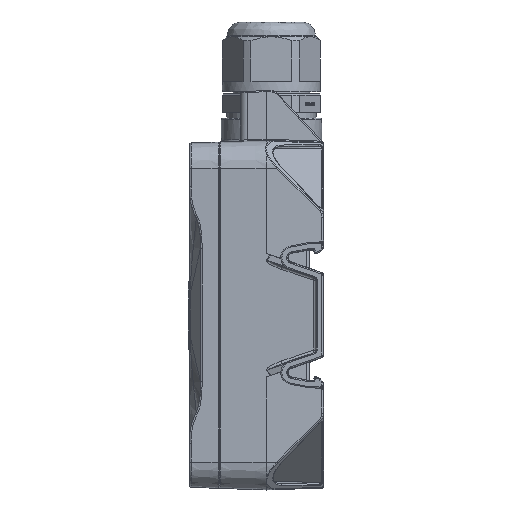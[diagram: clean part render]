
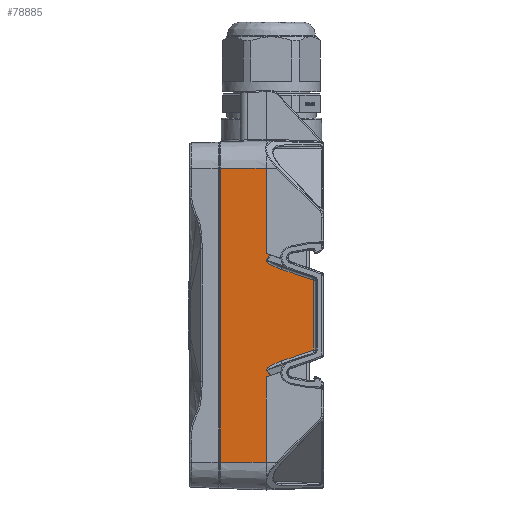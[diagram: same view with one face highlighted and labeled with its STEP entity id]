
A CAD part, left-side view. The second image highlights one B-rep face of the part: STEP entity #78885.
In plain terms, the highlighted planar face has unit normal (-0.999, 0.035, 0).
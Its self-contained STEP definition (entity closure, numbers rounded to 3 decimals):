
#1236 = EDGE_CURVE ( 'NONE', #76141, #101444, #124879, .T. ) ;
#1971 = CARTESIAN_POINT ( 'NONE',  ( -65.57, 12.31, 39.5 ) ) ;
#4113 = EDGE_CURVE ( 'NONE', #51769, #73610, #109948, .T. ) ;
#4723 = ORIENTED_EDGE ( 'NONE', *, *, #1236, .T. ) ;
#5016 = VECTOR ( 'NONE', #19097, 1000. ) ;
#9175 = CARTESIAN_POINT ( 'NONE',  ( -65.57, 12.31, -39.5 ) ) ;
#10316 = CARTESIAN_POINT ( 'NONE',  ( -65.999, 0.017, 16.62 ) ) ;
#11072 = AXIS2_PLACEMENT_3D ( 'NONE', #151407, #109719, #68897 ) ;
#11093 = ORIENTED_EDGE ( 'NONE', *, *, #160816, .T. ) ;
#11690 = LINE ( 'NONE', #62193, #165153 ) ;
#13814 = CARTESIAN_POINT ( 'NONE',  ( -66.443, -12.676, -22. ) ) ;
#14487 = VECTOR ( 'NONE', #138174, 1000. ) ;
#14850 = CARTESIAN_POINT ( 'NONE',  ( -66.005, -0.14, -14.843 ) ) ;
#17664 = CARTESIAN_POINT ( 'NONE',  ( -65.87, 3.715, 17.894 ) ) ;
#19097 = DIRECTION ( 'NONE',  ( 0.019, 0.531, 0.847 ) ) ;
#22162 = CARTESIAN_POINT ( 'NONE',  ( -65.993, 0.207, -14.29 ) ) ;
#22369 = EDGE_LOOP ( 'NONE', ( #114646, #120421, #50263, #164339, #110050, #11093, #83787, #150569, #36549, #82269, #34922, #23548, #169453, #4723 ) ) ;
#22684 = DIRECTION ( 'NONE',  ( 0., 0., -1. ) ) ;
#23062 = DIRECTION ( 'NONE',  ( -0.035, -0.999, 0. ) ) ;
#23548 = ORIENTED_EDGE ( 'NONE', *, *, #102438, .F. ) ;
#23552 = CARTESIAN_POINT ( 'NONE',  ( -66., 0., 0. ) ) ;
#26099 = DIRECTION ( 'NONE',  ( -0.033, -0.945, 0.326 ) ) ;
#32425 = FACE_OUTER_BOUND ( 'NONE', #22369, .T. ) ;
#34922 = ORIENTED_EDGE ( 'NONE', *, *, #165051, .F. ) ;
#35074 = VECTOR ( 'NONE', #22684, 1000. ) ;
#36549 = ORIENTED_EDGE ( 'NONE', *, *, #57466, .T. ) ;
#37752 = VECTOR ( 'NONE', #111480, 1000. ) ;
#42169 = LINE ( 'NONE', #146412, #158851 ) ;
#46138 = EDGE_CURVE ( 'NONE', #76141, #106489, #112344, .T. ) ;
#47369 = CARTESIAN_POINT ( 'NONE',  ( -66.005, -0.14, 14.843 ) ) ;
#48058 = VERTEX_POINT ( 'NONE', #156181 ) ;
#49209 = LINE ( 'NONE', #116060, #90589 ) ;
#50263 = ORIENTED_EDGE ( 'NONE', *, *, #149418, .T. ) ;
#51171 = EDGE_CURVE ( 'NONE', #115394, #51769, #67707, .T. ) ;
#51769 = VERTEX_POINT ( 'NONE', #130137 ) ;
#52212 = LINE ( 'NONE', #112033, #5016 ) ;
#53359 = CARTESIAN_POINT ( 'NONE',  ( -65.993, 0.207, 14.29 ) ) ;
#54317 = LINE ( 'NONE', #135027, #98914 ) ;
#54957 = EDGE_CURVE ( 'NONE', #89701, #147836, #158117, .T. ) ;
#57466 = EDGE_CURVE ( 'NONE', #73610, #48058, #167741, .T. ) ;
#57851 = DIRECTION ( 'NONE',  ( -0.033, -0.945, 0.325 ) ) ;
#60652 = VERTEX_POINT ( 'NONE', #72294 ) ;
#62193 = CARTESIAN_POINT ( 'NONE',  ( -66., 0., 39.5 ) ) ;
#65520 = CARTESIAN_POINT ( 'NONE',  ( -66.048, -1.388, -13.255 ) ) ;
#67707 =( BOUNDED_CURVE ( )  B_SPLINE_CURVE ( 3, ( #89043, #22162, #65520, #76858 ),
 .UNSPECIFIED., .F., .F. ) 
 B_SPLINE_CURVE_WITH_KNOTS ( ( 4, 4 ),
 ( 6.228, 7.842 ),
 .UNSPECIFIED. ) 
 CURVE ( )  GEOMETRIC_REPRESENTATION_ITEM ( )  RATIONAL_B_SPLINE_CURVE ( ( 1., 0.794, 0.794, 1. ) ) 
 REPRESENTATION_ITEM ( '' )  );
#68897 = DIRECTION ( 'NONE',  ( -0.035, -0.999, 0. ) ) ;
#69024 = DIRECTION ( 'NONE',  ( 0., 0., -1. ) ) ;
#70633 = PLANE ( 'NONE',  #11072 ) ;
#72294 = CARTESIAN_POINT ( 'NONE',  ( -66.005, -0.14, 14.843 ) ) ;
#72784 = DIRECTION ( 'NONE',  ( 0., 0., 1. ) ) ;
#73610 = VERTEX_POINT ( 'NONE', #117489 ) ;
#75034 = VERTEX_POINT ( 'NONE', #162423 ) ;
#76141 = VERTEX_POINT ( 'NONE', #10316 ) ;
#76858 = CARTESIAN_POINT ( 'NONE',  ( -66.138, -3.939, -12.376 ) ) ;
#78885 = ADVANCED_FACE ( 'NONE', ( #32425 ), #70633, .T. ) ;
#82269 = ORIENTED_EDGE ( 'NONE', *, *, #131190, .F. ) ;
#83787 = ORIENTED_EDGE ( 'NONE', *, *, #51171, .T. ) ;
#84345 = LINE ( 'NONE', #97364, #14487 ) ;
#89043 = CARTESIAN_POINT ( 'NONE',  ( -66.005, -0.14, -14.843 ) ) ;
#89701 = VERTEX_POINT ( 'NONE', #117491 ) ;
#90589 = VECTOR ( 'NONE', #101335, 1000. ) ;
#90837 = CARTESIAN_POINT ( 'NONE',  ( -66., 0., -39.5 ) ) ;
#97364 = CARTESIAN_POINT ( 'NONE',  ( -66.093, -2.671, 18.877 ) ) ;
#98914 = VECTOR ( 'NONE', #69024, 1000. ) ;
#101335 = DIRECTION ( 'NONE',  ( -0.033, -0.945, -0.325 ) ) ;
#101444 = VERTEX_POINT ( 'NONE', #127973 ) ;
#102438 = EDGE_CURVE ( 'NONE', #106489, #60652, #84345, .T. ) ;
#102932 = CARTESIAN_POINT ( 'NONE',  ( -66.048, -1.388, 13.255 ) ) ;
#104150 = VERTEX_POINT ( 'NONE', #9175 ) ;
#104680 = CARTESIAN_POINT ( 'NONE',  ( -66.036, -1.029, -16.259 ) ) ;
#105991 = CARTESIAN_POINT ( 'NONE',  ( -65.87, 3.715, -17.894 ) ) ;
#106489 = VERTEX_POINT ( 'NONE', #116049 ) ;
#109719 = DIRECTION ( 'NONE',  ( -0.999, 0.035, 0. ) ) ;
#109948 = LINE ( 'NONE', #136861, #129845 ) ;
#110050 = ORIENTED_EDGE ( 'NONE', *, *, #54957, .T. ) ;
#110983 = CARTESIAN_POINT ( 'NONE',  ( -65.999, 0.017, 39.5 ) ) ;
#111480 = DIRECTION ( 'NONE',  ( -0.033, -0.945, -0.326 ) ) ;
#112033 = CARTESIAN_POINT ( 'NONE',  ( -66.093, -2.671, -18.877 ) ) ;
#112344 = LINE ( 'NONE', #17664, #37752 ) ;
#114646 = ORIENTED_EDGE ( 'NONE', *, *, #125804, .F. ) ;
#115394 = VERTEX_POINT ( 'NONE', #14850 ) ;
#116049 = CARTESIAN_POINT ( 'NONE',  ( -66.036, -1.029, 16.259 ) ) ;
#116060 = CARTESIAN_POINT ( 'NONE',  ( -65.839, 4.6, 15.316 ) ) ;
#117274 = DIRECTION ( 'NONE',  ( 0., 0., 1. ) ) ;
#117489 = CARTESIAN_POINT ( 'NONE',  ( -66.443, -12.676, -9.368 ) ) ;
#117491 = CARTESIAN_POINT ( 'NONE',  ( -66., 0., -16.614 ) ) ;
#120421 = ORIENTED_EDGE ( 'NONE', *, *, #131372, .T. ) ;
#122992 = VECTOR ( 'NONE', #117274, 1000. ) ;
#124879 = LINE ( 'NONE', #110983, #160477 ) ;
#125804 = EDGE_CURVE ( 'NONE', #134498, #101444, #11690, .T. ) ;
#127457 = EDGE_CURVE ( 'NONE', #89701, #138561, #127769, .T. ) ;
#127769 = LINE ( 'NONE', #23552, #35074 ) ;
#127973 = CARTESIAN_POINT ( 'NONE',  ( -65.999, 0.017, 39.5 ) ) ;
#129845 = VECTOR ( 'NONE', #57851, 1000. ) ;
#130137 = CARTESIAN_POINT ( 'NONE',  ( -66.138, -3.939, -12.376 ) ) ;
#131190 = EDGE_CURVE ( 'NONE', #75034, #48058, #49209, .T. ) ;
#131372 = EDGE_CURVE ( 'NONE', #134498, #104150, #54317, .T. ) ;
#134498 = VERTEX_POINT ( 'NONE', #1971 ) ;
#135027 = CARTESIAN_POINT ( 'NONE',  ( -65.57, 12.31, -22. ) ) ;
#135704 = VECTOR ( 'NONE', #26099, 1000. ) ;
#136861 = CARTESIAN_POINT ( 'NONE',  ( -65.839, 4.6, -15.316 ) ) ;
#138174 = DIRECTION ( 'NONE',  ( 0.019, 0.531, -0.847 ) ) ;
#138561 = VERTEX_POINT ( 'NONE', #90837 ) ;
#146412 = CARTESIAN_POINT ( 'NONE',  ( -66., 0., -39.5 ) ) ;
#147836 = VERTEX_POINT ( 'NONE', #104680 ) ;
#148135 = DIRECTION ( 'NONE',  ( -0.035, -0.999, 0. ) ) ;
#149418 = EDGE_CURVE ( 'NONE', #104150, #138561, #42169, .T. ) ;
#150569 = ORIENTED_EDGE ( 'NONE', *, *, #4113, .T. ) ;
#151407 = CARTESIAN_POINT ( 'NONE',  ( -65.92, 2.302, -22. ) ) ;
#156181 = CARTESIAN_POINT ( 'NONE',  ( -66.443, -12.676, 9.368 ) ) ;
#157590 = CARTESIAN_POINT ( 'NONE',  ( -66.138, -3.939, 12.376 ) ) ;
#158117 = LINE ( 'NONE', #105991, #135704 ) ;
#158851 = VECTOR ( 'NONE', #148135, 1000. ) ;
#160477 = VECTOR ( 'NONE', #72784, 1000. ) ;
#160816 = EDGE_CURVE ( 'NONE', #147836, #115394, #52212, .T. ) ;
#162423 = CARTESIAN_POINT ( 'NONE',  ( -66.138, -3.939, 12.376 ) ) ;
#164339 = ORIENTED_EDGE ( 'NONE', *, *, #127457, .F. ) ;
#165051 = EDGE_CURVE ( 'NONE', #60652, #75034, #168247, .T. ) ;
#165153 = VECTOR ( 'NONE', #23062, 1000. ) ;
#167741 = LINE ( 'NONE', #13814, #122992 ) ;
#168247 =( BOUNDED_CURVE ( )  B_SPLINE_CURVE ( 3, ( #47369, #53359, #102932, #157590 ),
 .UNSPECIFIED., .F., .T. ) 
 B_SPLINE_CURVE_WITH_KNOTS ( ( 4, 4 ),
 ( 6.228, 7.842 ),
 .UNSPECIFIED. ) 
 CURVE ( )  GEOMETRIC_REPRESENTATION_ITEM ( )  RATIONAL_B_SPLINE_CURVE ( ( 1., 0.794, 0.794, 1. ) ) 
 REPRESENTATION_ITEM ( '' )  );
#169453 = ORIENTED_EDGE ( 'NONE', *, *, #46138, .F. ) ;
